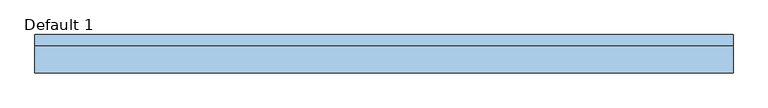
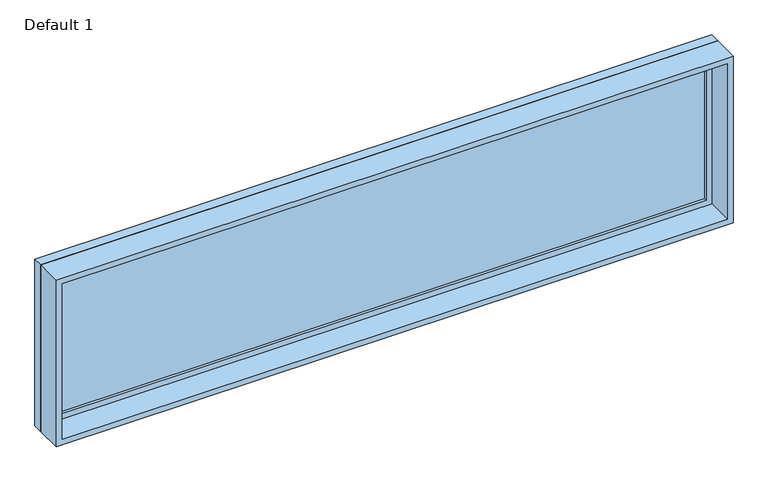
"""IFC4 building model written with IfcOpenShell, lengths in millimetres: window geometry, Planitar-Fixed : Default 1."""

from ifc_helpers import new_model, si_unit, frame, origin, place, context, project, spatial, polyline, outline, extrude, source, transform, mapped, element, save


def default_1_269046d4(model_context):
    return source(origin(), model_context, "Body", "SweptSolid", [
        extrude(outline(polyline([(1860.6, -1835.1997), (933.4, -1835.1997), (933.4, 1835.1997), (1860.6, 1835.1997), (1860.6, -1835.1997)]), holes=[polyline([(1816.6, -1791.1997), (1816.6, 1791.1997), (977.4, 1791.1997), (977.4, -1791.1997), (1816.6, -1791.1997)])]), frame((0.0, 57.9, 0.0), z_axis=(0.0, 1.0, 0.0), x_axis=(0.0, 0.0, 1.0)), (0.0, 0.0, 1.0), 44.0),
        extrude(outline(polyline([(1879.6, -1854.1997), (914.4, -1854.1997), (914.4, 1854.1997), (1879.6, 1854.1997), (1879.6, -1854.1997)]), holes=[polyline([(1860.6, -1835.1997), (1860.6, 1835.1997), (933.4, 1835.1997), (933.4, -1835.1997), (1860.6, -1835.1997)])]), frame((0.0, 57.9, 0.0), z_axis=(0.0, 1.0, 0.0), x_axis=(0.0, 0.0, 1.0)), (0.0, 0.0, 1.0), 56.7),
        extrude(outline(polyline([(1879.6, -1854.1997), (914.4, -1854.1997), (914.4, 1854.1997), (1879.6, 1854.1997), (1879.6, -1854.1997)]), holes=[polyline([(1847.6, -1822.1997), (1847.6, 1822.1997), (946.4, 1822.1997), (946.4, -1822.1997), (1847.6, -1822.1997)])]), frame((0.0, -88.6, 0.0), z_axis=(0.0, 1.0, 0.0), x_axis=(0.0, 0.0, 1.0)), (0.0, 0.0, 1.0), 146.5),
        extrude(outline(polyline([(-1791.1997, 85.9), (1791.1997, 85.9), (1791.1997, 73.9), (-1791.1997, 73.9), (-1791.1997, 85.9)])), frame((0.0, 0.0, 977.4), z_axis=(0.0, 0.0, 1.0), x_axis=(1.0, 0.0, 0.0)), (0.0, 0.0, 1.0), 839.2),
    ])


if __name__ == "__main__":
    model = new_model("IFC4")
    model_context = context("Model", 3, world=origin())
    ifc_project = project(units=[si_unit("LENGTHUNIT", "METRE", prefix="MILLI")], contexts=[model_context])
    site = spatial("IfcSite", under=ifc_project)
    building = spatial("IfcBuilding", under=site)
    placement = place(None, origin())
    default_1_shape = default_1_269046d4(model_context)
    element("IfcWindow", 1, ObjectType="Planitar-Fixed : Default 1", at=placement, inside=building, context=model_context, shape_type="MappedRepresentation", body=[
        mapped(default_1_shape, transform((0.0, 0.0, 0.0), x_axis=(1.0, 0.0, 0.0), y_axis=(0.0, 1.0, 0.0), z_axis=(0.0, 0.0, 1.0))),
    ])
    save(model, "model.ifc")
